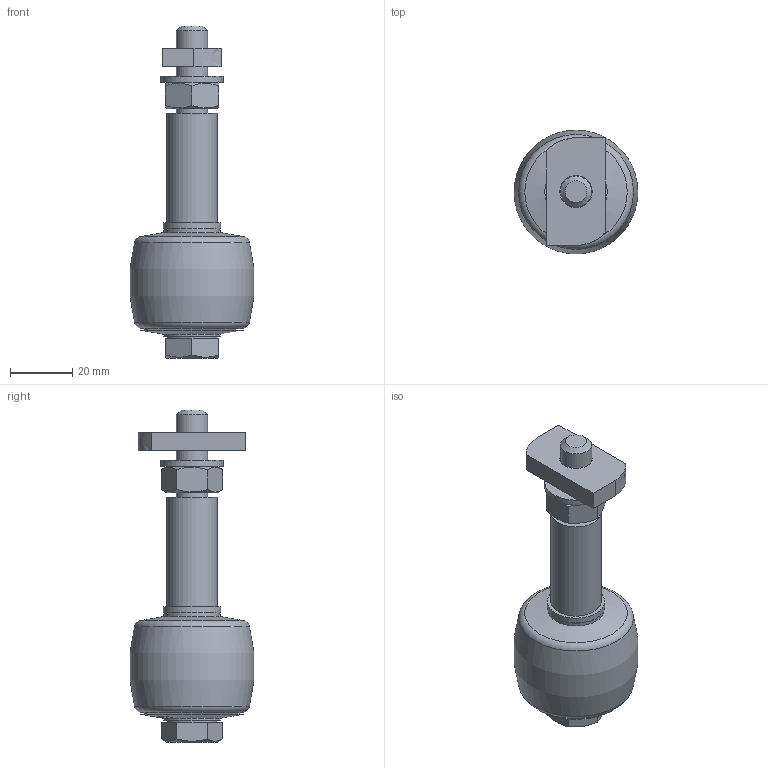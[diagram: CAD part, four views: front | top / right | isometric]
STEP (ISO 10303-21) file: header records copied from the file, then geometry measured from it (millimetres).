
FILE_DESCRIPTION(('STEP AP203'), '1');
FILE_NAME('ÐË40.10.00.000 ÑÁ - Ðîëèê ðåçèíîâûé ÝÑÊÈÇ', '', ('UNSPECIFIED'), ('UNSPECIFIED'), 'ASCON STEP Converter 1.6', 'ASCON Math Kernel', '');
FILE_SCHEMA(('CONFIG_CONTROL_DESIGN'));
Length unit declared in the file: millimetre
Products named in the file (1): 倓040.10.00.000
Bounding box: 39.65 x 39.65 x 106.4 mm (x, y, z)
Volume: 52517.4 mm3; surface area: 17196.5 mm2
Topology: 2 solids, 3 shells, 300 faces, 825 edges, 546 vertices
Faces by surface type: cylinder 140, plane 133, cone 21, torus 4, extrusion 2
Full cylindrical faces by diameter (mm): 8.376 x1, 10 x2, 11 x1, 16.1 x2, 18 x2, 18.4 x1, 20 x1
Entity records: 14349 total; most frequent: CARTESIAN_POINT 5311, ORIENTED_EDGE 1594, DIRECTION 950, EDGE_CURVE 798, VERTEX_POINT 546, B_SPLINE_CURVE_WITH_KNOTS 492, EDGE_LOOP 346, AXIS2_PLACEMENT_3D 341
